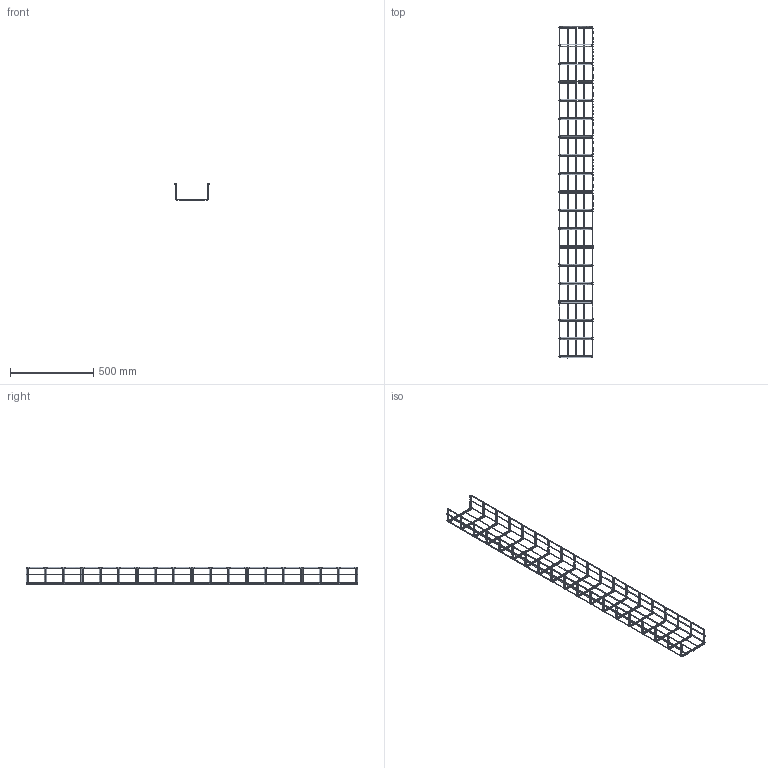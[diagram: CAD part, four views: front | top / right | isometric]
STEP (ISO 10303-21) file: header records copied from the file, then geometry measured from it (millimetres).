
FILE_DESCRIPTION(/* description */ (''),/* implementation_level */ '2;1');
FILE_NAME(/* name */ 'M2_200×100',/* time_stamp */ '2012-11-29T22:08:10+01:00',/* author */ (''),/* organization */ (''),/* preprocessor_version */ 'ST-DEVELOPER v10',/* originating_system */ '',/* authorisation */ '');
FILE_SCHEMA (('AUTOMOTIVE_DESIGN_CC2'));
Length unit declared in the file: millimetre
Products named in the file (1): 1
Bounding box: 204.19 x 1993.51 x 103.94 mm (x, y, z)
Surface area: 389674.8 mm2 (no closed solid volume)
Topology: 0 solids, 327 shells, 636 faces, 1872 edges, 1254 vertices
Faces by surface type: bspline 618, plane 18
Entity records: 52974 total; most frequent: CARTESIAN_POINT 41036, ORIENTED_EDGE 2490, EDGE_CURVE 1872, VERTEX_POINT 1254, B_SPLINE_CURVE_WITH_KNOTS 690, ADVANCED_FACE 636, FACE_OUTER_BOUND 636, EDGE_LOOP 636
